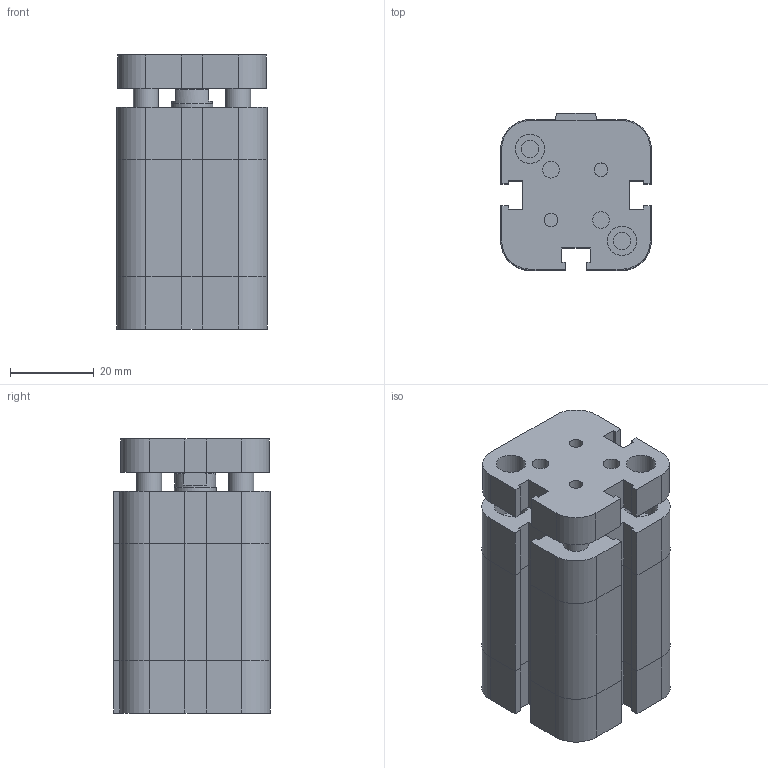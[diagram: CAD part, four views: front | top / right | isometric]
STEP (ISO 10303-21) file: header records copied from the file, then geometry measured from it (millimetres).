
FILE_DESCRIPTION((''),'2;1');
FILE_NAME('I:\Area Tecnica\Disegni\VARIE-3D\Componenti\EUROPE\15##_###_####_07_#\1581_20_0015_07_1.iam.stp','2009-04-20T15:19:40',(''),(''),'Autodesk Inventor 2009','Autodesk Inventor 2009','');
FILE_SCHEMA(('AUTOMOTIVE_DESIGN { 1 0 10303 214 1 1 1 1 }'));
Length unit declared in the file: millimetre
Products named in the file (3): 1581_20_0015_07_1; 1581_20_0015_07_1_C; 1561_20_0015_07_1_SA
Assembly tree (2 placements, depth 2):
  1581_20_0015_07_1
    1581_20_0015_07_1_C
    1561_20_0015_07_1_SA
Bounding box: 36 x 37.5 x 65.5 mm (x, y, z)
Volume: 68691.2 mm3; surface area: 22067.3 mm2
Topology: 2 solids, 2 shells, 206 faces, 483 edges, 301 vertices
Faces by surface type: plane 135, bspline 44, cylinder 21, cone 6
Full cylindrical faces by diameter (mm): 6 x2, 9.8 x2, 10 x1
Entity records: 6055 total; most frequent: CARTESIAN_POINT 1405, ORIENTED_EDGE 876, DIRECTION 854, EDGE_CURVE 438, VECTOR 340, LINE 340, VERTEX_POINT 286, EDGE_LOOP 268
